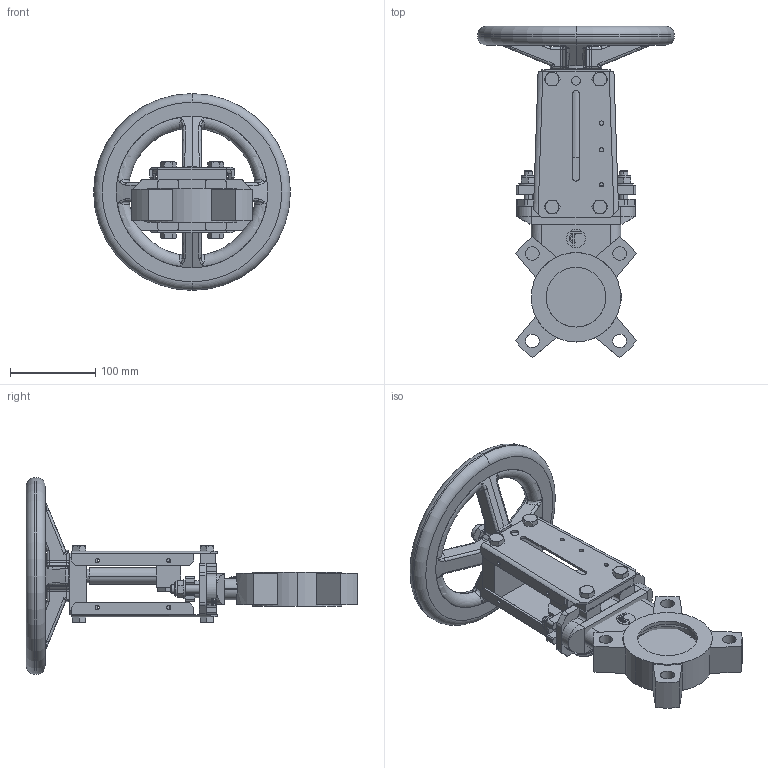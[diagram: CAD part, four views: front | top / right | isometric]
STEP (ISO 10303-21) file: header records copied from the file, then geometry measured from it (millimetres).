
FILE_DESCRIPTION (( 'STEP AP203' ), '1' );
FILE_NAME ('VG N DN65.STEP', '2010-01-27T02:46:53', ( 'farex' ), ( '' ), 'SwSTEP 2.0', 'SolidWorks 2009', '' );
FILE_SCHEMA (( 'CONFIG_CONTROL_DESIGN' ));
Length unit declared in the file: millimetre
Products named in the file (1): VG N DN65
Bounding box: 231 x 388.97 x 231 mm (x, y, z)
Volume: 1664171.9 mm3; surface area: 361249.3 mm2
Topology: 6 solids, 6 shells, 825 faces, 2178 edges, 1390 vertices
Faces by surface type: plane 343, cylinder 244, cone 101, bspline 95, torus 42
Entity records: 34534 total; most frequent: CARTESIAN_POINT 14838, ORIENTED_EDGE 4324, DIRECTION 3774, EDGE_CURVE 2162, AXIS2_PLACEMENT_3D 1391, VERTEX_POINT 1390, VECTOR 992, LINE 992
